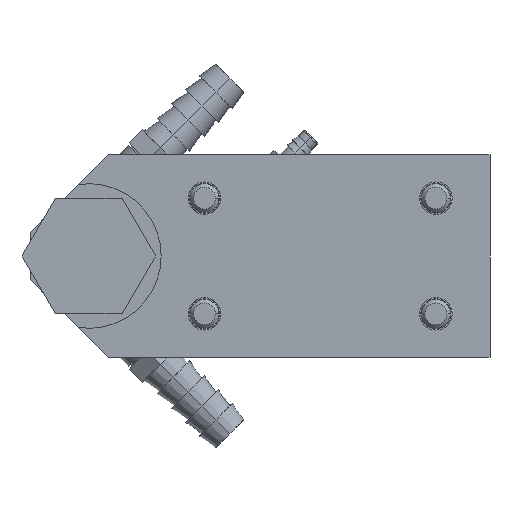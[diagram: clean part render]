
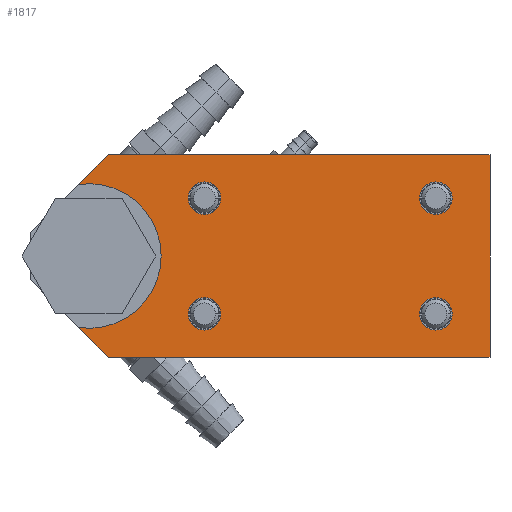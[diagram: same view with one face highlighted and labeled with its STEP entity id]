
A CAD part, left-side view. The second image highlights one B-rep face of the part: STEP entity #1817.
In plain terms, the highlighted planar face has unit normal (-1, 0, 0).
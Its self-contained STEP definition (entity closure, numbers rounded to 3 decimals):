
#1422=CARTESIAN_POINT('',(-2.813,-1.141,0.5));
#1423=VERTEX_POINT('',#1422);
#1432=CARTESIAN_POINT('',(-2.813,-0.859,0.5));
#1433=VERTEX_POINT('',#1432);
#1434=CARTESIAN_POINT('',(-2.813,-1.,0.5));
#1435=DIRECTION('',(1.0,0.0,0.0));
#1436=DIRECTION('',(0.0,-1.0,0.0));
#1437=AXIS2_PLACEMENT_3D('',#1434,#1435,#1436);
#1438=CIRCLE('',#1437,0.141);
#1439=EDGE_CURVE('',#1433,#1423,#1438,.T.);
#1464=CARTESIAN_POINT('',(-2.813,-3.141,0.5));
#1465=VERTEX_POINT('',#1464);
#1474=CARTESIAN_POINT('',(-2.813,-2.859,0.5));
#1475=VERTEX_POINT('',#1474);
#1476=CARTESIAN_POINT('',(-2.813,-3.0,0.5));
#1477=DIRECTION('',(1.0,0.0,0.0));
#1478=DIRECTION('',(0.0,-1.0,0.0));
#1479=AXIS2_PLACEMENT_3D('',#1476,#1477,#1478);
#1480=CIRCLE('',#1479,0.141);
#1481=EDGE_CURVE('',#1475,#1465,#1480,.T.);
#1506=CARTESIAN_POINT('',(-2.813,-3.141,-0.5));
#1507=VERTEX_POINT('',#1506);
#1516=CARTESIAN_POINT('',(-2.813,-2.859,-0.5));
#1517=VERTEX_POINT('',#1516);
#1518=CARTESIAN_POINT('',(-2.813,-3.0,-0.5));
#1519=DIRECTION('',(1.0,0.0,0.0));
#1520=DIRECTION('',(0.0,-1.0,0.0));
#1521=AXIS2_PLACEMENT_3D('',#1518,#1519,#1520);
#1522=CIRCLE('',#1521,0.141);
#1523=EDGE_CURVE('',#1517,#1507,#1522,.T.);
#1548=CARTESIAN_POINT('',(-2.813,-1.141,-0.5));
#1549=VERTEX_POINT('',#1548);
#1558=CARTESIAN_POINT('',(-2.813,-0.859,-0.5));
#1559=VERTEX_POINT('',#1558);
#1560=CARTESIAN_POINT('',(-2.813,-1.,-0.5));
#1561=DIRECTION('',(1.0,0.0,0.0));
#1562=DIRECTION('',(0.0,-1.0,0.0));
#1563=AXIS2_PLACEMENT_3D('',#1560,#1561,#1562);
#1564=CIRCLE('',#1563,0.141);
#1565=EDGE_CURVE('',#1559,#1549,#1564,.T.);
#1590=CARTESIAN_POINT('',(-2.813,0.088,-0.619));
#1591=VERTEX_POINT('',#1590);
#1608=CARTESIAN_POINT('',(-2.813,-0.168,-0.875));
#1609=VERTEX_POINT('',#1608);
#1616=CARTESIAN_POINT('',(-2.813,-0.168,-0.875));
#1617=DIRECTION('',(0.0,0.707,0.707));
#1618=VECTOR('',#1617,0.362);
#1619=LINE('',#1616,#1618);
#1620=EDGE_CURVE('',#1609,#1591,#1619,.T.);
#1719=CARTESIAN_POINT('',(-2.813,0.088,0.619));
#1720=VERTEX_POINT('',#1719);
#1721=CARTESIAN_POINT('',(-2.813,0.0,0.));
#1722=DIRECTION('',(1.0,0.0,0.0));
#1723=DIRECTION('',(0.0,-1.0,0.0));
#1724=AXIS2_PLACEMENT_3D('',#1721,#1722,#1723);
#1725=CIRCLE('',#1724,0.625);
#1726=EDGE_CURVE('',#1720,#1591,#1725,.T.);
#1738=CARTESIAN_POINT('',(-2.813,-1.597,0.));
#1739=DIRECTION('',(1.0,0.0,0.0));
#1740=DIRECTION('',(0.0,-1.0,0.0));
#1741=AXIS2_PLACEMENT_3D('',#1738,#1739,#1740);
#1742=PLANE('',#1741);
#1743=ORIENTED_EDGE('',*,*,#1620,.F.);
#1744=CARTESIAN_POINT('',(-2.813,-3.467,-0.875));
#1745=VERTEX_POINT('',#1744);
#1746=CARTESIAN_POINT('',(-2.813,-3.467,-0.875));
#1747=DIRECTION('',(0.0,1.0,0.0));
#1748=VECTOR('',#1747,3.3);
#1749=LINE('',#1746,#1748);
#1750=EDGE_CURVE('',#1745,#1609,#1749,.T.);
#1751=ORIENTED_EDGE('',*,*,#1750,.F.);
#1752=CARTESIAN_POINT('',(-2.813,-3.467,0.875));
#1753=VERTEX_POINT('',#1752);
#1754=CARTESIAN_POINT('',(-2.813,-3.467,0.875));
#1755=DIRECTION('',(0.0,0.0,-1.0));
#1756=VECTOR('',#1755,1.75);
#1757=LINE('',#1754,#1756);
#1758=EDGE_CURVE('',#1753,#1745,#1757,.T.);
#1759=ORIENTED_EDGE('',*,*,#1758,.F.);
#1760=CARTESIAN_POINT('',(-2.813,-0.168,0.875));
#1761=VERTEX_POINT('',#1760);
#1762=CARTESIAN_POINT('',(-2.813,-0.168,0.875));
#1763=DIRECTION('',(0.0,-1.0,0.0));
#1764=VECTOR('',#1763,3.3);
#1765=LINE('',#1762,#1764);
#1766=EDGE_CURVE('',#1761,#1753,#1765,.T.);
#1767=ORIENTED_EDGE('',*,*,#1766,.F.);
#1768=CARTESIAN_POINT('',(-2.813,0.088,0.619));
#1769=DIRECTION('',(0.0,-0.707,0.707));
#1770=VECTOR('',#1769,0.362);
#1771=LINE('',#1768,#1770);
#1772=EDGE_CURVE('',#1720,#1761,#1771,.T.);
#1773=ORIENTED_EDGE('',*,*,#1772,.F.);
#1774=ORIENTED_EDGE('',*,*,#1726,.T.);
#1775=EDGE_LOOP('',(#1743,#1751,#1759,#1767,#1773,#1774));
#1776=FACE_OUTER_BOUND('',#1775,.T.);
#1777=ORIENTED_EDGE('',*,*,#1565,.T.);
#1778=CARTESIAN_POINT('',(-2.813,-1.,-0.5));
#1779=DIRECTION('',(1.0,0.0,0.0));
#1780=DIRECTION('',(0.0,-1.0,0.0));
#1781=AXIS2_PLACEMENT_3D('',#1778,#1779,#1780);
#1782=CIRCLE('',#1781,0.141);
#1783=EDGE_CURVE('',#1549,#1559,#1782,.T.);
#1784=ORIENTED_EDGE('',*,*,#1783,.T.);
#1785=EDGE_LOOP('',(#1777,#1784));
#1786=FACE_BOUND('',#1785,.T.);
#1787=ORIENTED_EDGE('',*,*,#1523,.T.);
#1788=CARTESIAN_POINT('',(-2.813,-3.0,-0.5));
#1789=DIRECTION('',(1.0,0.0,0.0));
#1790=DIRECTION('',(0.0,-1.0,0.0));
#1791=AXIS2_PLACEMENT_3D('',#1788,#1789,#1790);
#1792=CIRCLE('',#1791,0.141);
#1793=EDGE_CURVE('',#1507,#1517,#1792,.T.);
#1794=ORIENTED_EDGE('',*,*,#1793,.T.);
#1795=EDGE_LOOP('',(#1787,#1794));
#1796=FACE_BOUND('',#1795,.T.);
#1797=ORIENTED_EDGE('',*,*,#1481,.T.);
#1798=CARTESIAN_POINT('',(-2.813,-3.0,0.5));
#1799=DIRECTION('',(1.0,0.0,0.0));
#1800=DIRECTION('',(0.0,-1.0,0.0));
#1801=AXIS2_PLACEMENT_3D('',#1798,#1799,#1800);
#1802=CIRCLE('',#1801,0.141);
#1803=EDGE_CURVE('',#1465,#1475,#1802,.T.);
#1804=ORIENTED_EDGE('',*,*,#1803,.T.);
#1805=EDGE_LOOP('',(#1797,#1804));
#1806=FACE_BOUND('',#1805,.T.);
#1807=ORIENTED_EDGE('',*,*,#1439,.T.);
#1808=CARTESIAN_POINT('',(-2.813,-1.,0.5));
#1809=DIRECTION('',(1.0,0.0,0.0));
#1810=DIRECTION('',(0.0,-1.0,0.0));
#1811=AXIS2_PLACEMENT_3D('',#1808,#1809,#1810);
#1812=CIRCLE('',#1811,0.141);
#1813=EDGE_CURVE('',#1423,#1433,#1812,.T.);
#1814=ORIENTED_EDGE('',*,*,#1813,.T.);
#1815=EDGE_LOOP('',(#1807,#1814));
#1816=FACE_BOUND('',#1815,.T.);
#1817=ADVANCED_FACE('',(#1776,#1786,#1796,#1806,#1816),#1742,.F.);
